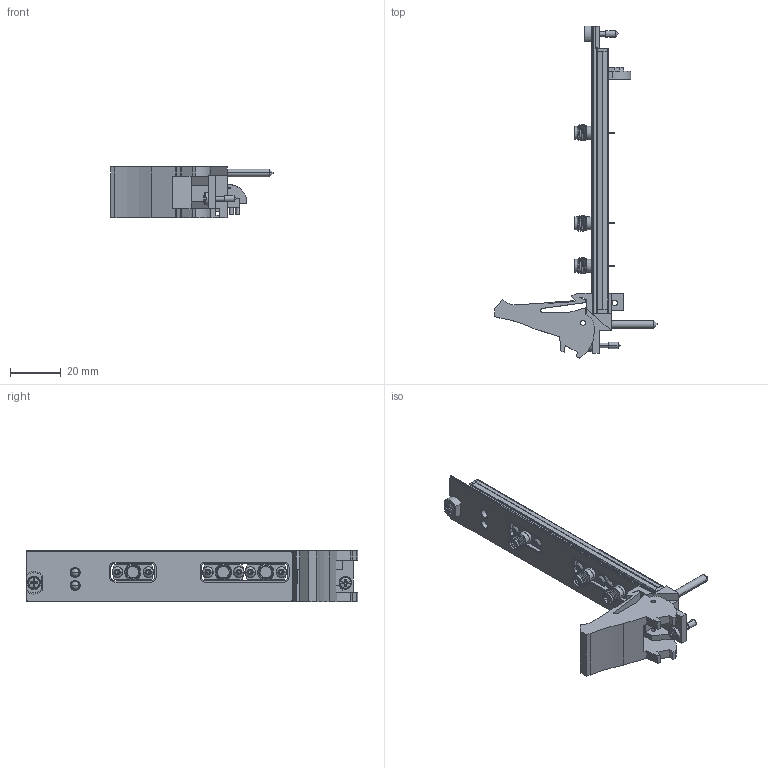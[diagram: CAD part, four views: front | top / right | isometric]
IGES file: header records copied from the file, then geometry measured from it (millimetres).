
Start section:  PTC IGES file: cd_pxie-565x.igs
Global section: file name: cd_pxie-565x.igs; native system: Creo Parametric by Parametric Technology Corporation; preprocessor: 2015280; author: jjorden; organization: Unknown; date: 20160229.143830; units: inch
Bounding box: 63.73 x 130.5 x 20.29 mm (x, y, z)
Surface area: 17335.8 mm2 (no closed solid volume)
Topology: 0 solids, 0 shells, 957 faces, 5128 edges, 5108 vertices
Faces by surface type: bspline 494, revolution 463
